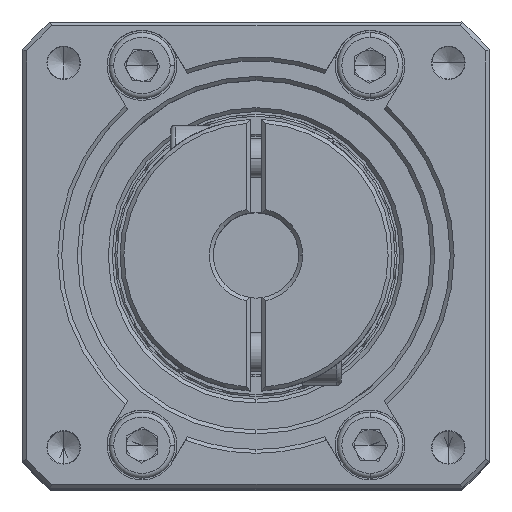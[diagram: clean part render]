
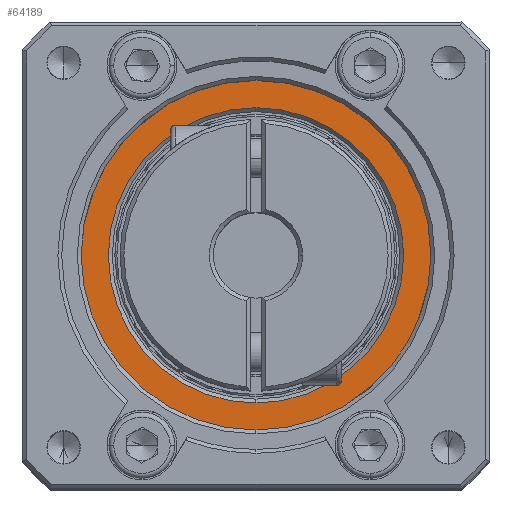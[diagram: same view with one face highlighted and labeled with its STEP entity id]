
A CAD part, top view. The second image highlights one B-rep face of the part: STEP entity #64189.
In plain terms, the highlighted planar face has unit normal (0, 0, 1).
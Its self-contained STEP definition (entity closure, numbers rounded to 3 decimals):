
#463 = EDGE_LOOP ( 'NONE', ( #26527, #113663 ) ) ;
#3111 = DIRECTION ( 'NONE',  ( 0., -1., 0. ) ) ;
#6399 = DIRECTION ( 'NONE',  ( 0., 0., 1. ) ) ;
#10627 = AXIS2_PLACEMENT_3D ( 'NONE', #42873, #105567, #51824 ) ;
#12442 = CIRCLE ( 'NONE', #106728, 19. ) ;
#14059 = CARTESIAN_POINT ( 'NONE',  ( -95.138, 43., 6.277 ) ) ;
#14493 = VERTEX_POINT ( 'NONE', #38329 ) ;
#23112 = DIRECTION ( 'NONE',  ( 0., -1., 0. ) ) ;
#26527 = ORIENTED_EDGE ( 'NONE', *, *, #59286, .T. ) ;
#29907 = CIRCLE ( 'NONE', #56954, 22.5 ) ;
#31681 = PLANE ( 'NONE',  #103227 ) ;
#36155 = FACE_BOUND ( 'NONE', #463, .T. ) ;
#38329 = CARTESIAN_POINT ( 'NONE',  ( -95.138, 62., 6.277 ) ) ;
#39443 = VERTEX_POINT ( 'NONE', #67580 ) ;
#41308 = VERTEX_POINT ( 'NONE', #58630 ) ;
#42873 = CARTESIAN_POINT ( 'NONE',  ( -95.138, 43., 6.277 ) ) ;
#48457 = ORIENTED_EDGE ( 'NONE', *, *, #96864, .T. ) ;
#51381 = DIRECTION ( 'NONE',  ( 0., 0., -1. ) ) ;
#51824 = DIRECTION ( 'NONE',  ( 0., -1., 0. ) ) ;
#52278 = CARTESIAN_POINT ( 'NONE',  ( -95.138, 20.5, 6.277 ) ) ;
#56615 = DIRECTION ( 'NONE',  ( 0., 0., -1. ) ) ;
#56954 = AXIS2_PLACEMENT_3D ( 'NONE', #59933, #6399, #68964 ) ;
#58630 = CARTESIAN_POINT ( 'NONE',  ( -95.138, 24., 6.277 ) ) ;
#58976 = CIRCLE ( 'NONE', #10627, 22.5 ) ;
#59286 = EDGE_CURVE ( 'NONE', #41308, #14493, #12442, .T. ) ;
#59933 = CARTESIAN_POINT ( 'NONE',  ( -95.138, 43., 6.277 ) ) ;
#61316 = EDGE_CURVE ( 'NONE', #39443, #77789, #58976, .T. ) ;
#64189 = ADVANCED_FACE ( 'NONE', ( #36155, #83801 ), #31681, .T. ) ;
#67580 = CARTESIAN_POINT ( 'NONE',  ( -95.138, 65.5, 6.277 ) ) ;
#68964 = DIRECTION ( 'NONE',  ( 0., -1., 0. ) ) ;
#76635 = DIRECTION ( 'NONE',  ( 0., 0., 1. ) ) ;
#77789 = VERTEX_POINT ( 'NONE', #52278 ) ;
#83801 = FACE_OUTER_BOUND ( 'NONE', #88462, .T. ) ;
#88462 = EDGE_LOOP ( 'NONE', ( #48457, #93941 ) ) ;
#89030 = EDGE_CURVE ( 'NONE', #14493, #41308, #106741, .T. ) ;
#93542 = AXIS2_PLACEMENT_3D ( 'NONE', #110407, #56615, #3111 ) ;
#93941 = ORIENTED_EDGE ( 'NONE', *, *, #61316, .T. ) ;
#96864 = EDGE_CURVE ( 'NONE', #77789, #39443, #29907, .T. ) ;
#103227 = AXIS2_PLACEMENT_3D ( 'NONE', #14059, #76635, #23112 ) ;
#105121 = CARTESIAN_POINT ( 'NONE',  ( -95.138, 43., 6.277 ) ) ;
#105567 = DIRECTION ( 'NONE',  ( 0., 0., 1. ) ) ;
#106728 = AXIS2_PLACEMENT_3D ( 'NONE', #105121, #51381, #114164 ) ;
#106741 = CIRCLE ( 'NONE', #93542, 19. ) ;
#110407 = CARTESIAN_POINT ( 'NONE',  ( -95.138, 43., 6.277 ) ) ;
#113663 = ORIENTED_EDGE ( 'NONE', *, *, #89030, .T. ) ;
#114164 = DIRECTION ( 'NONE',  ( 0., -1., 0. ) ) ;
